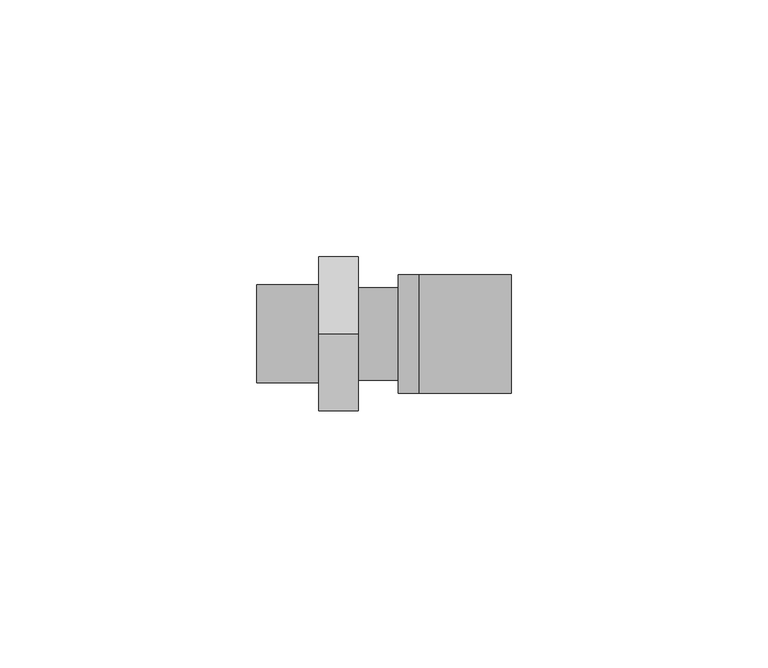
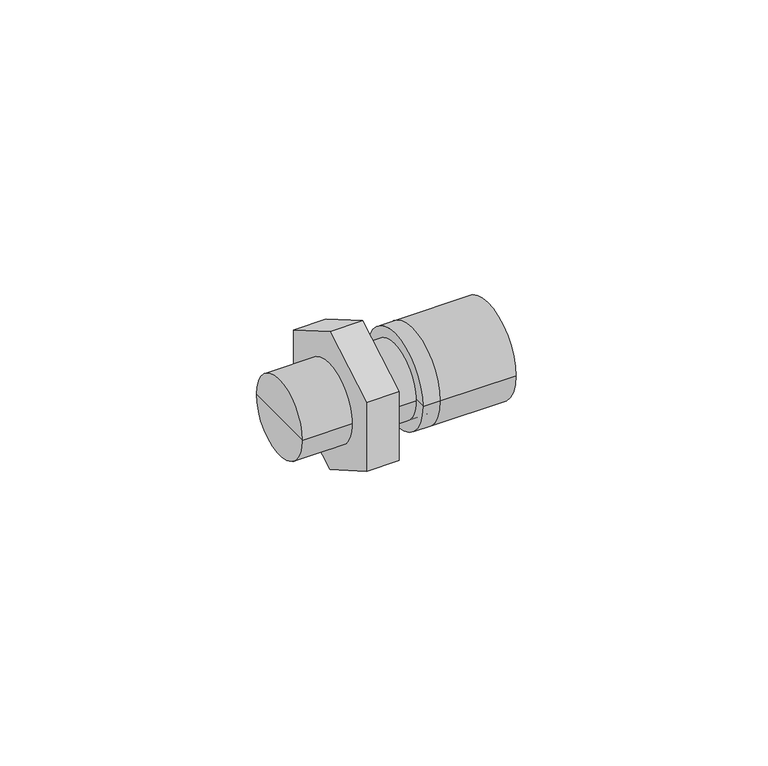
"""IFC4 building model written with IfcOpenShell, lengths in millimetres: pipe fitting geometry, KAN-therm Push złączka z gz 3-4 : KAN-therm Push złączka z gz 3-4."""

from ifc_helpers import new_model, si_unit, frame, origin, place, context, project, spatial, polyline, circle_curve, outline, extrude, source, transform, mapped, element, save
from ifc_brep_helpers import plane_surface, cylinder_surface, advanced_brep


def pipe_fitting_61a2e5dc(model_context):
    return source(origin(), model_context, "Body", "SolidModel", [
        advanced_brep(
        [(19.5, -11.5, 0.0), (19.5, 11.5, 0.0), (19.5, 0.0, 0.0), (15.5, -11.5, 0.0), (15.5, 11.5, 0.0), (15.5, 0.0, 0.0)],
        [
            (0, 1, circle_curve(frame((19.5, 0.0, 0.0), z_axis=(1.0, 0.0, 0.0), x_axis=(0.0, 1.0, 0.0)), 11.5)),
            (1, 2),
            (2, 0),
            (1, 0, circle_curve(frame((19.5, 0.0, 0.0), z_axis=(1.0, 0.0, 0.0), x_axis=(0.0, 1.0, 0.0)), 11.5)),
            (3, 4, circle_curve(frame((15.5, 0.0, 0.0), z_axis=(1.0, 0.0, 0.0), x_axis=(0.0, 1.0, 0.0)), 11.5)),
            (4, 1),
            (0, 3),
            (4, 3, circle_curve(frame((15.5, 0.0, 0.0), z_axis=(1.0, 0.0, 0.0), x_axis=(0.0, 1.0, 0.0)), 11.5)),
            (5, 4),
            (3, 5),
        ],
        [
            plane_surface(frame((19.5, 0.0, 0.0), z_axis=(1.0, 0.0, 0.0), x_axis=(0.0, 1.0, 0.0))),
            cylinder_surface(frame((2014.5, 0.0, 0.0), z_axis=(-1.0, 0.0, 0.0), x_axis=(0.0, 1.0, 0.0)), 11.5),
            plane_surface(frame((15.5, 0.0, 0.0), z_axis=(-1.0, 0.0, 0.0), x_axis=(0.0, 1.0, 0.0))),
        ],
        [
            (0, [[1, 2, 3]]),
            (0, [[4, -3, -2]]),
            (1, [[5, 6, -1, 7]]),
            (1, [[8, -7, -4, -6]]),
            (2, [[9, -5, 10]]),
            (2, [[-10, -8, -9]]),
        ],
    ),
        advanced_brep(
        [(37.5, -11.5, 0.0), (37.5, 11.5, 0.0), (37.5, 0.0, 0.0), (19.5, -11.5, 0.0), (19.5, 11.5, 0.0), (19.5, 0.0, 0.0)],
        [
            (0, 1, circle_curve(frame((37.5, 0.0, 0.0), z_axis=(1.0, 0.0, 0.0), x_axis=(0.0, 1.0, 0.0)), 11.5)),
            (1, 2),
            (2, 0),
            (1, 0, circle_curve(frame((37.5, 0.0, 0.0), z_axis=(1.0, 0.0, 0.0), x_axis=(0.0, 1.0, 0.0)), 11.5)),
            (3, 4, circle_curve(frame((19.5, 0.0, 0.0), z_axis=(1.0, 0.0, 0.0), x_axis=(0.0, 1.0, 0.0)), 11.5)),
            (4, 1),
            (0, 3),
            (4, 3, circle_curve(frame((19.5, 0.0, 0.0), z_axis=(1.0, 0.0, 0.0), x_axis=(0.0, 1.0, 0.0)), 11.5)),
            (5, 4),
            (3, 5),
        ],
        [
            plane_surface(frame((37.5, 0.0, 0.0), z_axis=(1.0, 0.0, 0.0), x_axis=(0.0, 1.0, 0.0))),
            cylinder_surface(frame((2014.5, 0.0, 0.0), z_axis=(-1.0, 0.0, 0.0), x_axis=(0.0, 1.0, 0.0)), 11.5),
            plane_surface(frame((19.5, 0.0, 0.0), z_axis=(-1.0, 0.0, 0.0), x_axis=(0.0, 1.0, 0.0))),
        ],
        [
            (0, [[1, 2, 3]]),
            (0, [[4, -3, -2]]),
            (1, [[5, 6, -1, 7]]),
            (1, [[8, -7, -4, -6]]),
            (2, [[9, -5, 10]]),
            (2, [[-10, -8, -9]]),
        ],
    ),
        extrude(outline(polyline([(0.0, -17.3205081), (-15.0, -8.660254), (-15.0, 8.660254), (0.0, 17.3205081), (15.0, 8.660254), (15.0, -8.660254), (0.0, -17.3205081)])), frame((0.0, 0.0, 0.0), z_axis=(1.0, 0.0, 0.0), x_axis=(0.0, 1.0, 0.0)), (0.0, 0.0, 1.0), 7.75),
        advanced_brep(
        [(19.5, -9.0, 0.0), (19.5, 9.0, 0.0), (19.5, 0.0, 0.0), (7.75, -9.0, 0.0), (7.75, 9.0, 0.0), (7.75, 0.0, 0.0)],
        [
            (0, 1, circle_curve(frame((19.5, 0.0, 0.0), z_axis=(1.0, 0.0, 0.0), x_axis=(0.0, 1.0, 0.0)), 9.0)),
            (1, 2),
            (2, 0),
            (1, 0, circle_curve(frame((19.5, 0.0, 0.0), z_axis=(1.0, 0.0, 0.0), x_axis=(0.0, 1.0, 0.0)), 9.0)),
            (3, 4, circle_curve(frame((7.75, 0.0, 0.0), z_axis=(1.0, 0.0, 0.0), x_axis=(0.0, 1.0, 0.0)), 9.0)),
            (4, 1),
            (0, 3),
            (4, 3, circle_curve(frame((7.75, 0.0, 0.0), z_axis=(1.0, 0.0, 0.0), x_axis=(0.0, 1.0, 0.0)), 9.0)),
            (5, 4),
            (3, 5),
        ],
        [
            plane_surface(frame((19.5, 0.0, 0.0), z_axis=(1.0, 0.0, 0.0), x_axis=(0.0, 1.0, 0.0))),
            cylinder_surface(frame((2003.5, 0.0, 0.0), z_axis=(-1.0, 0.0, 0.0), x_axis=(0.0, 1.0, 0.0)), 9.0),
            plane_surface(frame((7.75, 0.0, 0.0), z_axis=(-1.0, 0.0, 0.0), x_axis=(0.0, 1.0, 0.0))),
        ],
        [
            (0, [[1, 2, 3]]),
            (0, [[4, -3, -2]]),
            (1, [[5, 6, -1, 7]]),
            (1, [[8, -7, -4, -6]]),
            (2, [[9, -5, 10]]),
            (2, [[-10, -8, -9]]),
        ],
    ),
        advanced_brep(
        [(0.0, -9.525, 0.0), (0.0, 9.525, 0.0), (0.0, 0.0, 0.0), (-12.0, -9.525, 0.0), (-12.0, 9.525, 0.0), (-12.0, 0.0, 0.0)],
        [
            (0, 1, circle_curve(frame((0.0, 0.0, 0.0), z_axis=(1.0, 0.0, 0.0), x_axis=(0.0, 1.0, 0.0)), 9.525)),
            (1, 2),
            (2, 0),
            (1, 0, circle_curve(frame((0.0, 0.0, 0.0), z_axis=(1.0, 0.0, 0.0), x_axis=(0.0, 1.0, 0.0)), 9.525)),
            (3, 4, circle_curve(frame((-12.0, 0.0, 0.0), z_axis=(1.0, 0.0, 0.0), x_axis=(0.0, 1.0, 0.0)), 9.525)),
            (4, 1),
            (0, 3),
            (4, 3, circle_curve(frame((-12.0, 0.0, 0.0), z_axis=(1.0, 0.0, 0.0), x_axis=(0.0, 1.0, 0.0)), 9.525)),
            (5, 4),
            (3, 5),
        ],
        [
            plane_surface(frame((0.0, 0.0, 0.0), z_axis=(1.0, 0.0, 0.0), x_axis=(0.0, 1.0, 0.0))),
            cylinder_surface(frame((2003.5, 0.0, 0.0), z_axis=(-1.0, 0.0, 0.0), x_axis=(0.0, 1.0, 0.0)), 9.525),
            plane_surface(frame((-12.0, 0.0, 0.0), z_axis=(-1.0, 0.0, 0.0), x_axis=(0.0, 1.0, 0.0))),
        ],
        [
            (0, [[1, 2, 3]]),
            (0, [[4, -3, -2]]),
            (1, [[5, 6, -1, 7]]),
            (1, [[8, -7, -4, -6]]),
            (2, [[9, -5, 10]]),
            (2, [[-10, -8, -9]]),
        ],
    ),
    ])


if __name__ == "__main__":
    model = new_model("IFC4")
    model_context = context("Model", 3, world=origin())
    ifc_project = project(units=[si_unit("LENGTHUNIT", "METRE", prefix="MILLI")], contexts=[model_context])
    site = spatial("IfcSite", under=ifc_project)
    building = spatial("IfcBuilding", under=site)
    placement = place(None, origin())
    pipe_fitting_shape = pipe_fitting_61a2e5dc(model_context)
    element("IfcPipeFitting", 1, ObjectType="KAN-therm Push złączka z gz 3-4 : KAN-therm Push złączka z gz 3-4", at=placement, inside=building, context=model_context, shape_type="MappedRepresentation", body=[
        mapped(pipe_fitting_shape, transform((0.0, 0.0, 0.0), x_axis=(1.0, 0.0, 0.0), y_axis=(0.0, 1.0, 0.0), z_axis=(0.0, 0.0, 1.0))),
    ])
    save(model, "model.ifc")
